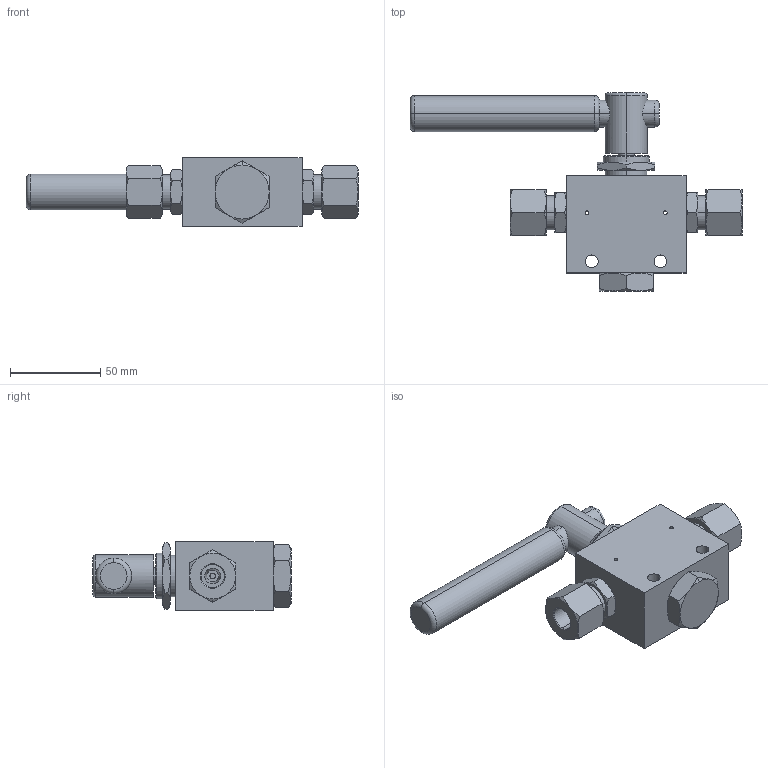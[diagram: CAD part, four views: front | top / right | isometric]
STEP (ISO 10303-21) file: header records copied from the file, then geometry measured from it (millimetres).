
FILE_DESCRIPTION (( 'STEP AP203' ), '1' );
FILE_NAME ('BV1503S04-2-90.STEP', '2022-04-07T09:55:28', ( '' ), ( '' ), 'SwSTEP 2.0', 'SolidWorks 2020', '' );
FILE_SCHEMA (( 'CONFIG_CONTROL_DESIGN' ));
Length unit declared in the file: millimetre
Products named in the file (1): BV1503S04-2-90
Bounding box: 184.33 x 110 x 38 mm (x, y, z)
Volume: 223267.1 mm3; surface area: 39311.8 mm2
Topology: 1 solids, 1 shells, 216 faces, 468 edges, 274 vertices
Faces by surface type: cone 98, plane 64, cylinder 46, torus 8
Entity records: 6561 total; most frequent: CARTESIAN_POINT 1943, DIRECTION 946, ORIENTED_EDGE 928, EDGE_CURVE 464, AXIS2_PLACEMENT_3D 413, VERTEX_POINT 274, EDGE_LOOP 248, ADVANCED_FACE 216
